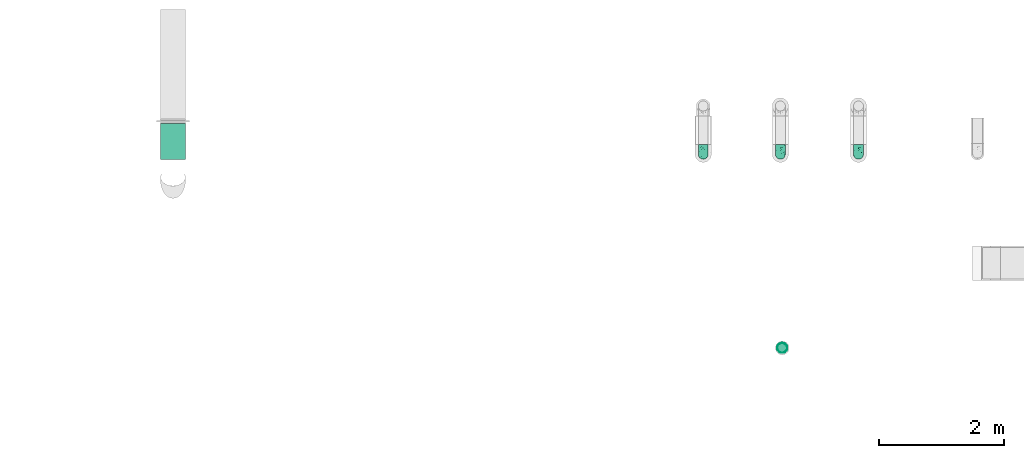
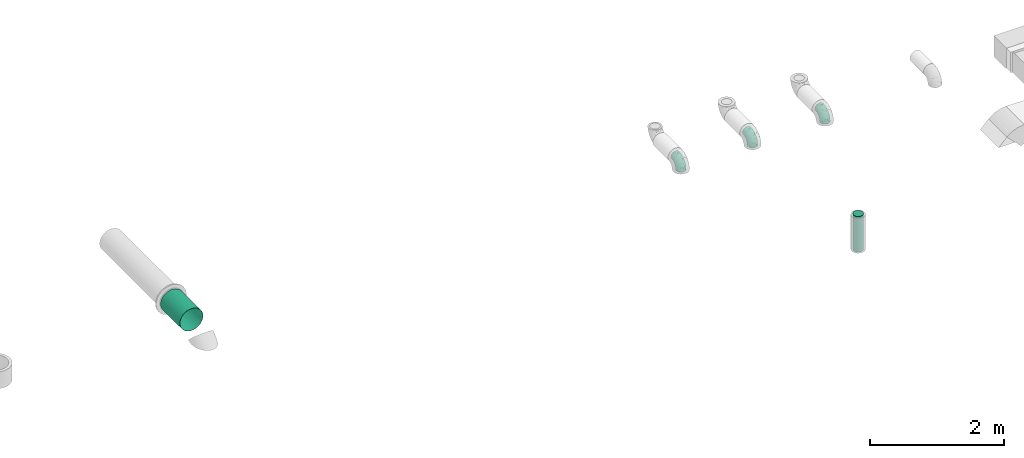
# One storey, part 9 of 14: 4 flow fittings, 2 flow segments.
"""IFC2X3 building model written with IfcOpenShell, lengths in millimetres."""

from ifc_helpers import new_model, entity, si_unit, converted_unit, derived_unit, direction, frame, origin_with_axes, origin_2d_with_axis, place, context, subcontext, project, spatial, hollow_circle, extrude, open_shell, surface_model, source, transform, mapped, type_object, element, save


model = new_model("IFC2X3")

# Units and contexts
model_context = context("Model", 3, precision=0.01, world=frame((0.0, 4.29681676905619e-09, 0.0)), true_north=direction((4.01073788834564e-13, 1.0)))
plan_context = context("Plan", 3, precision=0.01, world=frame((0.0, 4.29681676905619e-09, 0.0)), true_north=direction((4.01073788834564e-13, 1.0)))
body_context = subcontext(model_context, "Body", "Model", "MODEL_VIEW")
ifc_project = project(units=[converted_unit("PLANEANGLEUNIT", "DEGREE", entity("IfcPositiveLengthMeasure", 0.0174532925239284), si_unit("PLANEANGLEUNIT", "RADIAN"), dimensions=[0, 0, 0, 0, 0, 0, 0]), si_unit("AREAUNIT", "SQUARE_METRE"), si_unit("LENGTHUNIT", "METRE", prefix="MILLI"), si_unit("MASSUNIT", "GRAM", prefix="KILO"), si_unit("POWERUNIT", "WATT"), si_unit("PRESSUREUNIT", "PASCAL", prefix="KILO"), si_unit("FORCEUNIT", "NEWTON", prefix="KILO"), si_unit("ELECTRICVOLTAGEUNIT", "VOLT"), si_unit("ELECTRICCURRENTUNIT", "AMPERE"), si_unit("THERMODYNAMICTEMPERATUREUNIT", "DEGREE_CELSIUS"), si_unit("TIMEUNIT", "SECOND"), si_unit("VOLUMEUNIT", "CUBIC_METRE"), derived_unit("LINEARVELOCITYUNIT", [(si_unit("LENGTHUNIT", "METRE"), 1), (si_unit("TIMEUNIT", "SECOND"), -1)]), derived_unit("VOLUMETRICFLOWRATEUNIT", [(si_unit("VOLUMEUNIT", "CUBIC_METRE"), 1), (si_unit("TIMEUNIT", "SECOND"), -1)]), derived_unit("THERMALTRANSMITTANCEUNIT", [(si_unit("POWERUNIT", "WATT"), 1), (si_unit("THERMODYNAMICTEMPERATUREUNIT", "KELVIN"), -1), (si_unit("AREAUNIT", "SQUARE_METRE"), -1)]), derived_unit("SOUNDPRESSUREUNIT", [(si_unit("PRESSUREUNIT", "PASCAL"), 1)])], contexts=[model_context, plan_context])

# Site, building, storey
site_placement = place(None, frame((0.0, -4.29681676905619e-09, 0.0), z_axis=(0.0, 0.0, 1.0), x_axis=(1.0, 0.0, 0.0)))
site = spatial("IfcSite", under=ifc_project, at=site_placement, CompositionType="ELEMENT")
building_placement = place(site_placement, frame((0.0, 4.29681676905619e-09, 0.0), z_axis=(0.0, 0.0, 1.0), x_axis=(1.0, 0.0, 0.0)))
building = spatial("IfcBuilding", under=site, at=building_placement, Name="mc-building", CompositionType="ELEMENT")
storey_placement = place(building_placement, frame((0.0, 0.0, 205200.0), z_axis=(0.0, 0.0, 1.0), x_axis=(1.0, 0.0, 0.0)))
storey = spatial("IfcBuildingStorey", under=building, at=storey_placement, Name="Nivå D + 1,2 m", CompositionType="ELEMENT", Elevation=205200.0)

# Flow fittings
duct_fitting_type_1 = type_object("IfcDuctFittingType", Name="magicirc_elbow_full_radius_001", PredefinedType="BEND")
shared_shape_1 = source(origin_with_axes(), body_context, "Body", "SurfaceModel", [
    surface_model("IfcShellBasedSurfaceModel", [(-160.0, 0.0, -80.0), (-160.0, -56.56854, -56.56854), (-160.0, 20.70552, -77.27406), (-160.0, 40.0, -69.28203), (-160.0, 56.56854, -56.56854), (-160.0, 77.27406, -20.70552), (-160.0, 69.28203, -40.0), (-160.0, -80.0, 0.0), (-160.0, 69.28203, 40.0), (-160.0, -40.0, -69.28203), (-160.0, -20.70552, -77.27406), (-160.0, -77.27406, -20.70552), (-160.0, -69.28203, -40.0), (-160.0, 80.0, 0.0), (-160.0, 77.27406, 20.70552), (-160.0, 20.70552, 77.27406), (-160.0, 40.0, 69.28203), (-160.0, 56.56854, 56.56854), (-160.0, -56.56854, 56.56854), (-160.0, -77.27406, 20.70552), (-160.0, -69.28203, 40.0), (-160.0, -40.0, 69.28203), (-160.0, -20.70552, 77.27406), (-160.0, 0.0, 80.0), (-56.56854, 160.0, -56.56854), (0.0, 160.0, -80.0), (-20.70552, 160.0, -77.27406), (-40.0, 160.0, -69.28203), (-69.28203, 160.0, -40.0), (-77.27406, 160.0, -20.70552), (80.0, 160.0, 0.0), (-69.28203, 160.0, 40.0), (20.70552, 160.0, -77.27406), (56.56854, 160.0, -56.56854), (40.0, 160.0, -69.28203), (69.28203, 160.0, -40.0), (77.27406, 160.0, -20.70552), (-80.0, 160.0, 0.0), (-77.27406, 160.0, 20.70552), (-20.70552, 160.0, 77.27406), (-40.0, 160.0, 69.28203), (-56.56854, 160.0, 56.56854), (56.56854, 160.0, 56.56854), (69.28203, 160.0, 40.0), (77.27406, 160.0, 20.70552), (20.70552, 160.0, 77.27406), (40.0, 160.0, 69.28203), (0.0, 160.0, 80.0), (-7.67266, -21.79675, 21.05868), (8.63855, -8.63855, 0.0), (17.96443, 2.02525, 17.92911), (-140.16743, -77.7654, 0.0), (-106.59497, -73.9827, 0.0), (29.723, 108.68797, 71.16791), (-113.34063, -71.33168, 25.00935), (-123.58725, -11.32442, 78.55215), (-114.19463, 11.05185, 79.89136), (-120.89343, -62.92105, 44.73211), (-136.99007, 48.21133, 65.545), (-125.7428, 66.03381, 52.93316), (-72.81456, -60.8982, 19.91644), (-77.58343, -53.98906, 39.94873), (-42.50524, -35.90229, 41.43184), (-78.86833, -44.65396, 52.74557), (-108.99664, -47.43106, 59.38038), (-29.52166, 137.08777, 75.11566), (-10.11947, 120.85712, 79.83775), (-127.20537, 76.05333, 38.95505), (-33.44529, 31.50023, 77.36687), (-34.69782, 11.8754, 72.40877), (-3.9576, 41.66922, 71.52512), (26.83187, 21.52362, 33.70108), (11.94711, 15.99749, 47.62133), (4.03845, -4.03845, 34.90131), (-18.64804, 58.23046, 78.73392), (1.70441, 78.44684, 77.16576), (-24.59292, 77.35902, 79.98833), (-125.32148, 30.47275, 75.68771), (-120.22316, -31.11828, 71.8331), (13.78959, 36.02184, 59.49761), (-18.41896, 8.35587, 64.39884), (-132.46869, 81.36377, 22.79543), (-109.35207, 90.31178, 30.75773), (-113.43236, 93.30979, 14.57874), (-10.36245, -27.63956, 0.0), (-36.91073, -42.2953, 22.39915), (-49.76605, 124.95383, 66.59528), (-101.74646, 84.83423, 46.77127), (-83.4551, 69.09578, 68.59861), (-57.8183, 57.8183, 78.48541), (-61.03511, 86.31331, 71.12888), (-80.8816, 133.85749, 22.82614), (11.25, 122.68883, 78.52964), (-88.50247, 50.40579, 74.50178), (-88.28983, 33.35155, 78.68251), (48.70462, 119.33927, 60.25141), (72.29282, 119.98009, 25.83104), (-59.34673, 32.67512, 79.9668), (-85.16996, 17.5912, 79.99524), (-55.81318, 11.32632, 77.0441), (-85.00849, -30.99985, 66.01123), (61.00402, 106.81813, 43.23186), (-63.63219, 104.75463, 63.29969), (-65.20844, 129.34523, 52.48684), (-81.52275, 91.34159, 57.39681), (-80.52734, 120.37798, 36.48088), (-92.79431, 112.52422, 18.97703), (77.7654, 140.16743, 0.0), (45.79804, 48.13306, 29.8135), (39.33304, 28.76653, 14.61158), (-86.08964, 129.38533, 0.0), (-103.43146, 103.43146, 0.0), (38.36592, 71.69521, 55.99832), (-129.38533, 86.08964, 0.0), (-33.86953, 107.56813, 76.49949), (18.04365, 71.78656, 70.01725), (62.2021, 82.62707, 27.05087), (52.38442, 74.10967, 40.32307), (-18.93284, -12.03044, 49.97072), (-81.23144, -65.10761, 0.0), (-55.8679, -56.23253, 0.0), (35.27083, 45.78049, 44.88351), (-100.73084, 72.28591, 58.89814), (-54.51985, -28.62932, 57.01532), (-52.59501, -10.07531, 68.60505), (-46.29588, 82.13982, 76.86014), (-38.63384, 52.61378, 79.97363), (-82.56986, -3.10078, 77.31631), (-108.41978, 53.99493, 68.019), (27.63956, 10.36245, 0.0), (41.93604, 33.11518, 0.0), (54.6063, 56.19906, 15.96171), (65.10761, 81.23144, 0.0), (73.9827, 106.59497, 0.0), (-33.11518, -41.93604, 0.0), (56.23253, 55.8679, 0.0), (-141.1977, 47.96131, -65.17319), (-64.44895, -19.03971, -67.4984), (-103.35167, -28.84014, -70.84909), (-70.80597, -2.08408, -75.9918), (-126.24815, 9.57583, -79.78686), (-92.41851, 111.96589, -21.39074), (-124.421, 30.58775, -75.73032), (-89.68718, 45.45889, -75.79365), (-72.7608, 72.76079, -71.12383), (-50.5252, 60.84727, -79.04915), (-131.39164, 83.13047, -17.86609), (-77.1981, 130.02354, -34.99688), (-109.68436, 96.08636, -14.59494), (-99.17231, 92.66183, -40.04471), (3.27066, -3.27066, -37.05737), (23.87018, 16.11689, -31.6452), (7.48215, -9.43108, -16.69956), (-127.69248, 65.57033, -52.69138), (-129.61888, 77.314, -35.05803), (14.19084, 23.61418, -51.48454), (6.36549, 39.84455, -65.9943), (-25.94451, -2.03239, -62.20998), (-26.59802, 26.59801, -74.69048), (-115.41173, 51.90171, -67.41842), (-118.93035, -72.15419, -25.70176), (-135.39431, -63.9394, -46.23407), (-49.36384, 127.30443, -66.39144), (-31.70102, 117.35326, -76.05932), (32.6897, 37.51953, -41.6191), (-117.97423, -48.56637, -60.13786), (-34.90372, -29.85168, -43.15761), (-38.30539, -41.45281, -26.85807), (-65.92648, -49.3744, -39.5542), (-102.66536, -60.2608, -42.78019), (-62.2887, -34.90476, -55.07246), (72.15419, 118.93035, -25.70176), (60.87615, 76.45775, -24.52708), (60.2608, 102.66536, -42.78019), (-135.79353, -31.90262, -72.68345), (-76.45775, -60.87615, -24.52708), (-16.2755, -23.90667, -31.80484), (41.45281, 38.30539, -26.85807), (29.85056, 15.89181, -16.16732), (10.9954, 119.95821, -78.46006), (-82.01415, 136.57063, -15.05464), (-119.95822, -10.9954, -78.46006), (48.56636, 117.97423, -60.13786), (31.90262, 135.79353, -72.68345), (-9.57583, 126.24814, -79.78686), (63.9394, 135.39431, -46.23407), (49.3744, 65.92648, -39.5542), (-16.01966, -29.80786, -16.69762), (-63.81137, 36.54386, -79.9236), (-30.67208, 51.19767, -79.49125), (-53.65888, 23.04044, -78.87036), (2.08408, 70.80596, -75.9918), (28.84014, 103.35167, -70.84909), (34.90476, 62.2887, -55.07246), (-17.62209, 87.93848, -79.99888), (18.59902, 70.56114, -69.43027), (-95.91193, 73.87581, -60.23528), (-37.74115, 88.00927, -77.92086), (-63.46095, 140.83483, -51.07129), (-68.41389, 95.24352, -64.12485), (-51.13608, 97.13293, -72.27976), (-83.6892, 93.72418, -54.10776), (-87.93848, 17.62208, -79.99888), (-43.59797, 2.06669, -71.34384), (-69.04822, 115.75437, -54.18349), (-8.80879, -2.12536, -50.94302)], [open_shell([[[0, 1, 2]], [[3, 2, 4]], [[5, 6, 4]], [[4, 2, 1]], [[4, 7, 8]], [[9, 1, 10]], [[1, 0, 10]], [[11, 7, 12]], [[1, 12, 7]], [[1, 7, 4]], [[13, 5, 4]], [[8, 14, 13]], [[7, 15, 8]], [[8, 15, 16]], [[17, 8, 16]], [[18, 15, 7]], [[19, 20, 7]], [[7, 20, 18]], [[21, 22, 18]], [[22, 15, 18]], [[15, 22, 23]], [[8, 13, 4]], [[24, 25, 26]], [[24, 26, 27]], [[24, 28, 29]], [[25, 24, 30]], [[31, 30, 24]], [[32, 33, 34]], [[32, 25, 33]], [[35, 30, 36]], [[30, 35, 33]], [[25, 30, 33]], [[24, 29, 37]], [[37, 38, 31]], [[31, 39, 30]], [[40, 39, 31]], [[40, 31, 41]], [[30, 39, 42]], [[30, 43, 44]], [[42, 43, 30]], [[42, 45, 46]], [[42, 39, 45]], [[47, 45, 39]], [[24, 37, 31]], [[48, 49, 50]], [[51, 52, 19]], [[53, 46, 45]], [[54, 20, 19]], [[54, 19, 52]], [[23, 55, 56]], [[20, 57, 18]], [[17, 58, 59]], [[54, 60, 61]], [[62, 63, 61]], [[64, 18, 57]], [[39, 65, 66]], [[8, 59, 67]], [[68, 69, 70]], [[71, 72, 73]], [[22, 55, 23]], [[74, 75, 76]], [[16, 15, 77]], [[21, 64, 78]], [[79, 70, 80]], [[77, 15, 56]], [[59, 8, 17]], [[81, 13, 14]], [[81, 82, 83]], [[84, 48, 85]], [[40, 41, 86]], [[82, 67, 87]], [[88, 89, 90]], [[17, 16, 58]], [[23, 56, 15]], [[64, 21, 18]], [[31, 38, 91]], [[47, 92, 45]], [[93, 77, 94]], [[42, 46, 95]], [[44, 43, 96]], [[97, 98, 99]], [[47, 39, 66]], [[64, 100, 78]], [[96, 43, 101]], [[66, 92, 47]], [[95, 46, 53]], [[102, 103, 104]], [[87, 105, 82]], [[82, 105, 106]], [[96, 107, 44]], [[91, 106, 105]], [[21, 78, 22]], [[108, 71, 109]], [[37, 110, 91]], [[91, 110, 106]], [[106, 111, 83]], [[42, 101, 43]], [[111, 106, 110]], [[95, 112, 101]], [[103, 86, 41]], [[83, 111, 113]], [[90, 114, 86]], [[79, 115, 70]], [[116, 117, 108]], [[75, 70, 115]], [[86, 114, 65]], [[65, 39, 40]], [[72, 118, 73]], [[64, 57, 63]], [[116, 96, 101]], [[119, 120, 60]], [[66, 76, 75]], [[57, 54, 61]], [[121, 108, 117]], [[50, 109, 71]], [[87, 122, 104]], [[81, 67, 82]], [[41, 31, 103]], [[90, 102, 104]], [[76, 66, 114]], [[92, 75, 53]], [[62, 118, 123]], [[123, 124, 100]], [[104, 122, 88]], [[125, 114, 90]], [[125, 76, 114]], [[89, 94, 97]], [[126, 89, 97]], [[99, 124, 69]], [[117, 116, 101]], [[86, 65, 40]], [[112, 95, 53]], [[101, 42, 95]], [[64, 63, 100]], [[55, 78, 127]], [[94, 77, 56]], [[58, 77, 128]], [[54, 57, 20]], [[57, 61, 63]], [[113, 13, 81]], [[106, 83, 82]], [[31, 105, 103]], [[104, 103, 105]], [[75, 92, 66]], [[53, 45, 92]], [[78, 55, 22]], [[56, 55, 127]], [[94, 98, 97]], [[89, 88, 93]], [[113, 81, 83]], [[67, 14, 8]], [[67, 81, 14]], [[59, 122, 87]], [[59, 87, 67]], [[105, 87, 104]], [[94, 56, 98]], [[68, 74, 126]], [[109, 129, 130]], [[73, 118, 62]], [[59, 128, 122]], [[88, 122, 128]], [[88, 128, 93]], [[104, 88, 90]], [[77, 93, 128]], [[89, 93, 94]], [[109, 131, 108]], [[96, 132, 133]], [[124, 123, 80]], [[127, 78, 100]], [[69, 124, 80]], [[127, 100, 124]], [[101, 112, 117]], [[121, 117, 112]], [[79, 121, 112]], [[71, 108, 121]], [[53, 75, 115]], [[123, 118, 80]], [[72, 121, 79]], [[50, 71, 73]], [[50, 73, 48]], [[50, 129, 109]], [[121, 72, 71]], [[80, 72, 79]], [[80, 118, 72]], [[63, 62, 123]], [[79, 112, 115]], [[74, 70, 75]], [[61, 85, 62]], [[62, 85, 48]], [[62, 48, 73]], [[85, 120, 134]], [[131, 130, 135]], [[130, 131, 109]], [[131, 135, 132]], [[116, 108, 131]], [[132, 96, 116]], [[131, 132, 116]], [[112, 53, 115]], [[70, 69, 80]], [[99, 69, 68]], [[97, 99, 68]], [[124, 99, 127]], [[77, 58, 16]], [[59, 58, 128]], [[19, 7, 51]], [[107, 96, 133]], [[107, 30, 44]], [[66, 65, 114]], [[31, 91, 105]], [[91, 38, 37]], [[85, 60, 120]], [[54, 52, 119]], [[100, 63, 123]], [[90, 86, 102]], [[103, 102, 86]], [[90, 89, 125]], [[76, 125, 89]], [[126, 74, 76]], [[70, 74, 68]], [[89, 126, 76]], [[68, 126, 97]], [[56, 127, 98]], [[99, 98, 127]], [[49, 48, 84]], [[134, 84, 85]], [[49, 129, 50]], [[61, 60, 85]], [[119, 60, 54]], [[3, 4, 136]], [[137, 138, 139]], [[0, 2, 140]], [[110, 141, 111]], [[142, 2, 3]], [[143, 144, 145]], [[113, 146, 13]], [[147, 29, 28]], [[148, 149, 146]], [[150, 151, 152]], [[153, 6, 154]], [[150, 155, 151]], [[156, 157, 158]], [[136, 153, 159]], [[160, 12, 161]], [[162, 27, 163]], [[160, 51, 11]], [[151, 155, 164]], [[165, 1, 9]], [[166, 167, 168]], [[169, 165, 170]], [[35, 36, 171]], [[171, 172, 173]], [[160, 11, 12]], [[9, 174, 165]], [[160, 175, 119]], [[166, 176, 167]], [[9, 10, 174]], [[175, 168, 167]], [[177, 130, 178]], [[148, 111, 141]], [[175, 160, 169]], [[146, 149, 154]], [[32, 179, 25]], [[29, 180, 37]], [[3, 136, 142]], [[138, 181, 139]], [[180, 147, 141]], [[149, 141, 147]], [[33, 182, 34]], [[183, 179, 32]], [[26, 184, 163]], [[185, 33, 35]], [[184, 26, 25]], [[1, 161, 12]], [[24, 27, 162]], [[26, 163, 27]], [[32, 34, 183]], [[177, 186, 172]], [[187, 134, 167]], [[188, 189, 190]], [[191, 156, 158]], [[183, 182, 192]], [[174, 181, 138]], [[192, 182, 193]], [[181, 10, 0]], [[171, 107, 133]], [[159, 143, 142]], [[4, 6, 153]], [[171, 173, 185]], [[110, 180, 141]], [[194, 179, 191]], [[156, 191, 195]], [[159, 153, 196]], [[197, 145, 144]], [[28, 24, 198]], [[199, 162, 200]], [[199, 196, 201]], [[172, 186, 173]], [[185, 182, 33]], [[193, 182, 173]], [[191, 179, 192]], [[184, 179, 194]], [[195, 193, 156]], [[189, 191, 158]], [[171, 36, 107]], [[171, 132, 172]], [[170, 165, 138]], [[161, 165, 169]], [[140, 181, 0]], [[139, 181, 202]], [[158, 190, 189]], [[203, 137, 139]], [[168, 175, 169]], [[36, 30, 107]], [[154, 6, 5]], [[159, 196, 144]], [[143, 159, 144]], [[140, 142, 202]], [[200, 162, 163]], [[198, 162, 204]], [[146, 154, 5]], [[149, 153, 154]], [[198, 147, 28]], [[147, 204, 201]], [[175, 120, 119]], [[169, 170, 168]], [[143, 188, 202]], [[119, 52, 160]], [[142, 140, 2]], [[181, 140, 202]], [[179, 184, 25]], [[163, 184, 194]], [[153, 149, 196]], [[199, 201, 204]], [[197, 144, 200]], [[202, 142, 143]], [[189, 145, 194]], [[143, 145, 188]], [[193, 155, 156]], [[166, 157, 205]], [[157, 156, 155]], [[137, 170, 138]], [[200, 163, 197]], [[199, 200, 144]], [[196, 199, 144]], [[162, 199, 204]], [[196, 149, 201]], [[147, 201, 149]], [[193, 186, 164]], [[205, 155, 150]], [[163, 194, 197]], [[194, 145, 197]], [[13, 146, 5]], [[113, 111, 148]], [[164, 186, 177]], [[193, 173, 186]], [[164, 177, 151]], [[193, 164, 155]], [[177, 178, 151]], [[152, 129, 49]], [[152, 151, 178]], [[176, 187, 167]], [[172, 135, 177]], [[130, 177, 135]], [[130, 129, 178]], [[166, 168, 170]], [[157, 166, 170]], [[176, 166, 150]], [[191, 189, 194]], [[203, 190, 158]], [[139, 202, 190]], [[188, 190, 202]], [[150, 152, 176]], [[187, 176, 152]], [[152, 84, 187]], [[134, 120, 167]], [[187, 84, 134]], [[120, 175, 167]], [[189, 188, 145]], [[51, 160, 52]], [[51, 7, 11]], [[182, 183, 34]], [[179, 183, 192]], [[171, 185, 35]], [[182, 185, 173]], [[181, 174, 10]], [[165, 174, 138]], [[165, 161, 1]], [[160, 161, 169]], [[37, 180, 110]], [[147, 180, 29]], [[162, 198, 24]], [[147, 198, 204]], [[153, 136, 4]], [[142, 136, 159]], [[139, 190, 203]], [[157, 170, 137]], [[158, 157, 203]], [[157, 137, 203]], [[132, 171, 133]], [[132, 135, 172]], [[191, 192, 195]], [[193, 195, 192]], [[166, 205, 150]], [[157, 155, 205]], [[149, 148, 141]], [[113, 148, 146]], [[129, 152, 178]], [[49, 84, 152]]])]),
])
for number, where, z_axis, x_axis, name in (
    (1, (341336.70568, 465181.0, 4052.5), (1.0, 0.0, 0.0), (0.0, -1.0, 0.0), "magicirc_elbow_full_radius_001"),
    (2, (342573.81048, 465181.0, 4065.0), (1.0, 0.0, 0.0), (0.0, -1.0, 0.0), "magicirc_elbow_full_radius_001"),
    (3, (343825.73195, 465181.0, 4060.0), (1.0, 0.0, 0.0), (0.0, -1.0, 0.0), "magicirc_elbow_full_radius_001"),
):
    element("IfcFlowFitting", number, at=place(storey_placement, frame(where, z_axis=z_axis, x_axis=x_axis)), inside=storey, type_object=duct_fitting_type_1, Name=name, context=body_context, shape_type="MappedRepresentation", body=[
        mapped(shared_shape_1, transform((0.0, 0.0, 0.0), scale=1.0)),
    ])
duct_fitting_type_2 = type_object("IfcDuctFittingType", Name="magicirc_joint_001", PredefinedType="CONNECTOR")
shared_shape_2 = source(origin_with_axes(), body_context, "Body", "SurfaceModel", [
    surface_model("IfcShellBasedSurfaceModel", [(0.0, 40.0, -69.28203), (0.0, 20.70552, -77.27406), (0.0, 0.0, -80.0), (0.0, -56.56854, -56.56854), (0.0, 77.27406, -20.70552), (0.0, 69.28203, -40.0), (0.0, 56.56854, -56.56854), (0.0, 77.27406, 20.70552), (0.0, -20.70552, -77.27406), (0.0, -40.0, -69.28203), (0.0, -69.28203, -40.0), (0.0, -77.27406, -20.70552), (0.0, -80.0, 0.0), (0.0, 80.0, 0.0), (0.0, -69.28203, 40.0), (0.0, 69.28203, 40.0), (0.0, 40.0, 69.28203), (0.0, 20.70552, 77.27406), (0.0, 56.56854, 56.56854), (0.0, -56.56854, 56.56854), (0.0, -77.27406, 20.70552), (0.0, -20.70552, 77.27406), (0.0, 0.0, 80.0), (0.0, -40.0, 69.28203), (10.0, 0.0, -80.0), (10.0, 20.70552, -77.27406), (10.0, 40.0, -69.28203), (10.0, -56.56854, -56.56854), (10.0, 56.56854, -56.56854), (10.0, 69.28203, -40.0), (10.0, 77.27406, -20.70552), (10.0, -40.0, -69.28203), (10.0, -20.70552, -77.27406), (10.0, -69.28203, -40.0), (10.0, -80.0, 0.0), (10.0, -77.27406, -20.70552), (10.0, 77.27406, 20.70552), (10.0, -69.28203, 40.0), (10.0, 40.0, 69.28203), (10.0, 69.28203, 40.0), (10.0, 20.70552, 77.27406), (10.0, 56.56854, 56.56854), (10.0, -56.56854, 56.56854), (10.0, -77.27406, 20.70552), (10.0, -40.0, 69.28203), (10.0, 0.0, 80.0), (10.0, -20.70552, 77.27406), (10.0, 80.0, 0.0)], [open_shell([[[0, 1, 2]], [[0, 2, 3]], [[4, 5, 6]], [[6, 0, 3]], [[6, 3, 7]], [[8, 9, 2]], [[9, 3, 2]], [[10, 11, 3]], [[12, 3, 11]], [[12, 7, 3]], [[4, 6, 13]], [[7, 12, 14]], [[15, 7, 16]], [[7, 17, 16]], [[18, 15, 16]], [[17, 7, 14]], [[14, 19, 17]], [[14, 12, 20]], [[21, 22, 23]], [[19, 23, 17]], [[23, 22, 17]], [[7, 13, 6]], [[24, 25, 26]], [[27, 24, 26]], [[28, 29, 30]], [[27, 26, 28]], [[27, 28, 30]], [[24, 31, 32]], [[24, 27, 31]], [[33, 34, 35]], [[34, 33, 27]], [[30, 34, 27]], [[30, 36, 34]], [[34, 36, 37]], [[38, 36, 39]], [[38, 40, 36]], [[38, 39, 41]], [[37, 36, 40]], [[40, 42, 37]], [[43, 34, 37]], [[44, 45, 46]], [[40, 44, 42]], [[40, 45, 44]], [[36, 30, 47]], [[43, 12, 34]], [[37, 20, 43]], [[19, 42, 44]], [[37, 42, 14]], [[23, 44, 46]], [[37, 14, 20]], [[20, 12, 43]], [[21, 45, 22]], [[21, 23, 46]], [[19, 44, 23]], [[19, 14, 42]], [[45, 21, 46]], [[38, 17, 40]], [[41, 16, 38]], [[15, 39, 36]], [[41, 39, 18]], [[7, 36, 47]], [[38, 16, 17]], [[17, 22, 40]], [[7, 15, 36]], [[18, 39, 15]], [[18, 16, 41]], [[13, 7, 47]], [[40, 22, 45]], [[30, 13, 47]], [[29, 4, 30]], [[6, 28, 26]], [[29, 28, 5]], [[0, 26, 25]], [[29, 5, 4]], [[4, 13, 30]], [[1, 24, 2]], [[1, 0, 25]], [[6, 26, 0]], [[6, 5, 28]], [[24, 1, 25]], [[31, 8, 32]], [[27, 9, 31]], [[35, 34, 12]], [[27, 33, 3]], [[33, 35, 10]], [[31, 9, 8]], [[8, 2, 32]], [[11, 10, 35]], [[3, 33, 10]], [[3, 9, 27]], [[12, 11, 35]], [[32, 2, 24]]])]),
])
flow_fitting_placement = place(storey_placement, frame((342604.29502, 462075.0, 4514.97054000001), z_axis=(0.0, -1.0, 0.0), x_axis=(0.0, 0.0, 1.0)))
element("IfcFlowFitting", 4, at=flow_fitting_placement, inside=storey, type_object=duct_fitting_type_2, Name="magicirc_joint_001", context=body_context, shape_type="MappedRepresentation", body=[
    mapped(shared_shape_2, transform((0.0, 0.0, 0.0), scale=1.0)),
])

# Flow segments
duct_segment_type = type_object("IfcDuctSegmentType", Name="2 - Spiro kanaler, Forsinket stål", PredefinedType="RIGIDSEGMENT")
shared_shape_3 = source(origin_with_axes(), body_context, "Body", "SweptSolid", [
    extrude(hollow_circle(Radius=200.0, WallThickness=2.0, at=origin_2d_with_axis()), frame((0.0, 0.0, 0.0), z_axis=(1.0, 0.0, 0.0), x_axis=(0.0, 1.0, 0.0)), (0.0, 0.0, 1.0), 579.0),
])
flow_segment_1_placement = place(storey_placement, frame((332833.11956, 465676.80194, 4175.67687), z_axis=(0.0, 0.0, 1.0), x_axis=(0.0, -1.0, 0.0)))
element("IfcFlowSegment", 5, at=flow_segment_1_placement, inside=storey, type_object=duct_segment_type, Name="2 - Spiro kanaler, Forsinket stål", context=body_context, shape_type="MappedRepresentation", body=[
    mapped(shared_shape_3, transform((0.0, 0.0, 0.0), scale=1.0)),
])
shared_shape_4 = source(origin_with_axes(), body_context, "Body", "SweptSolid", [
    extrude(hollow_circle(Radius=80.0, WallThickness=2.0, at=origin_2d_with_axis()), frame((0.0, 0.0, 0.0), z_axis=(1.0, 0.0, 0.0), x_axis=(0.0, 1.0, 0.0)), (0.0, 0.0, 1.0), 640.0),
])
flow_segment_2_placement = place(storey_placement, frame((342604.29502, 462075.0, 3875.0), z_axis=(0.0, -1.0, 0.0), x_axis=(0.0, 0.0, 1.0)))
element("IfcFlowSegment", 6, at=flow_segment_2_placement, inside=storey, type_object=duct_segment_type, Name="2 - Spiro kanaler, Forsinket stål", context=body_context, shape_type="MappedRepresentation", body=[
    mapped(shared_shape_4, transform((0.0, 0.0, 0.0), scale=1.0)),
])

save(model, "model.ifc")
